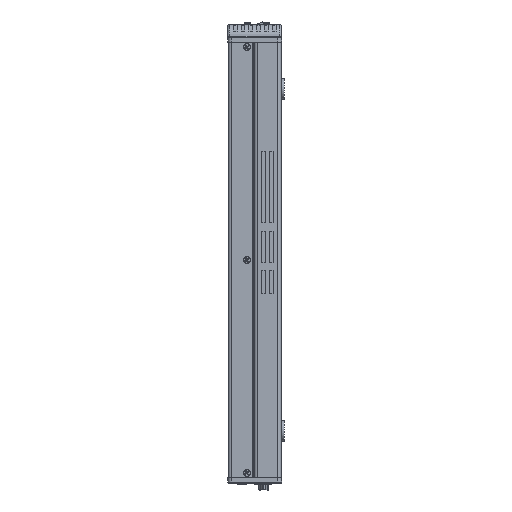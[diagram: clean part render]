
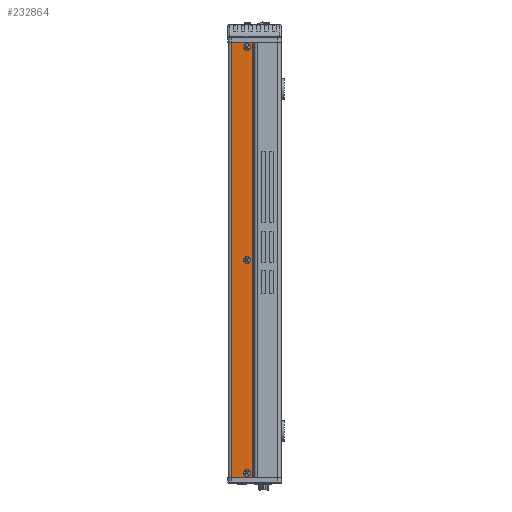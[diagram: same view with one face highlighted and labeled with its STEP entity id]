
A CAD part, left-side view. The second image highlights one B-rep face of the part: STEP entity #232864.
In plain terms, the highlighted planar face has unit normal (-1, 0, 0).
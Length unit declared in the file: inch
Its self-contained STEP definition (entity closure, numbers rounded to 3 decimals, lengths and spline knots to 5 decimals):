
#1735 = EDGE_LOOP ( 'NONE', ( #254996, #45891, #256459, #267257 ) ) ;
#3794 = CARTESIAN_POINT ( 'NONE',  ( -8.69, 0.3625, -13.84375 ) ) ;
#4994 = DIRECTION ( 'NONE',  ( 0., 1., 0. ) ) ;
#5361 = VERTEX_POINT ( 'NONE', #213661 ) ;
#5819 = CARTESIAN_POINT ( 'NONE',  ( -8.69, 0.1375, -0.15625 ) ) ;
#6050 = ORIENTED_EDGE ( 'NONE', *, *, #294753, .T. ) ;
#11266 = CARTESIAN_POINT ( 'NONE',  ( -8.69, 0.25, -0.15625 ) ) ;
#15564 = CARTESIAN_POINT ( 'NONE',  ( -8.69, 0.07, -14. ) ) ;
#18167 = LINE ( 'NONE', #118446, #237212 ) ;
#30434 = DIRECTION ( 'NONE',  ( 1., 0., 0. ) ) ;
#38079 = VECTOR ( 'NONE', #132512, 39.37008 ) ;
#38104 = AXIS2_PLACEMENT_3D ( 'NONE', #48220, #298061, #67967 ) ;
#42083 = EDGE_CURVE ( 'NONE', #42923, #79797, #316914, .T. ) ;
#42923 = VERTEX_POINT ( 'NONE', #85781 ) ;
#43448 = CIRCLE ( 'NONE', #38104, 0.1125 ) ;
#45891 = ORIENTED_EDGE ( 'NONE', *, *, #157587, .T. ) ;
#48220 = CARTESIAN_POINT ( 'NONE',  ( -8.69, 0.25, -13.84375 ) ) ;
#48782 = ORIENTED_EDGE ( 'NONE', *, *, #196059, .T. ) ;
#50822 = EDGE_LOOP ( 'NONE', ( #89971, #152458 ) ) ;
#59266 = EDGE_CURVE ( 'NONE', #5361, #78234, #131516, .T. ) ;
#62567 = CARTESIAN_POINT ( 'NONE',  ( -8.69, 0.25, -0.15625 ) ) ;
#67967 = DIRECTION ( 'NONE',  ( 0., -1., 0. ) ) ;
#68513 = FACE_BOUND ( 'NONE', #159468, .T. ) ;
#74805 = AXIS2_PLACEMENT_3D ( 'NONE', #62567, #30434, #263159 ) ;
#76491 = CARTESIAN_POINT ( 'NONE',  ( -8.69, 0.74, -14. ) ) ;
#78234 = VERTEX_POINT ( 'NONE', #167127 ) ;
#79797 = VERTEX_POINT ( 'NONE', #203722 ) ;
#81068 = VERTEX_POINT ( 'NONE', #3794 ) ;
#82670 = EDGE_LOOP ( 'NONE', ( #6050, #247662 ) ) ;
#85781 = CARTESIAN_POINT ( 'NONE',  ( -8.69, 0.3625, -7. ) ) ;
#89971 = ORIENTED_EDGE ( 'NONE', *, *, #151979, .T. ) ;
#91153 = AXIS2_PLACEMENT_3D ( 'NONE', #162662, #308908, #185706 ) ;
#97261 = VERTEX_POINT ( 'NONE', #271899 ) ;
#98264 = VERTEX_POINT ( 'NONE', #5819 ) ;
#101420 = CARTESIAN_POINT ( 'NONE',  ( -8.69, 0.07, 0. ) ) ;
#106051 = LINE ( 'NONE', #76491, #38079 ) ;
#107357 = DIRECTION ( 'NONE',  ( 0., -1., 0. ) ) ;
#111412 = DIRECTION ( 'NONE',  ( 1., 0., 0. ) ) ;
#118446 = CARTESIAN_POINT ( 'NONE',  ( -8.69, 0.74213, -7. ) ) ;
#131516 = LINE ( 'NONE', #282484, #208643 ) ;
#132512 = DIRECTION ( 'NONE',  ( 0., 1., 0. ) ) ;
#144259 = FACE_OUTER_BOUND ( 'NONE', #1735, .T. ) ;
#148365 = CIRCLE ( 'NONE', #74805, 0.1125 ) ;
#149837 = CARTESIAN_POINT ( 'NONE',  ( -8.69, 0.3625, -0.15625 ) ) ;
#151979 = EDGE_CURVE ( 'NONE', #79797, #42923, #268395, .T. ) ;
#152458 = ORIENTED_EDGE ( 'NONE', *, *, #42083, .T. ) ;
#155644 = EDGE_CURVE ( 'NONE', #244119, #78234, #18167, .T. ) ;
#156407 = EDGE_CURVE ( 'NONE', #323562, #98264, #148365, .T. ) ;
#157587 = EDGE_CURVE ( 'NONE', #246132, #5361, #274021, .T. ) ;
#158064 = DIRECTION ( 'NONE',  ( 1., 0., 0. ) ) ;
#158521 = AXIS2_PLACEMENT_3D ( 'NONE', #204926, #180275, #252553 ) ;
#159468 = EDGE_LOOP ( 'NONE', ( #271818, #48782 ) ) ;
#162662 = CARTESIAN_POINT ( 'NONE',  ( -8.69, 0.25, -7. ) ) ;
#166935 = AXIS2_PLACEMENT_3D ( 'NONE', #189146, #158064, #235220 ) ;
#167127 = CARTESIAN_POINT ( 'NONE',  ( -8.69, 0.74213, 0. ) ) ;
#168847 = FACE_BOUND ( 'NONE', #82670, .T. ) ;
#179817 = EDGE_CURVE ( 'NONE', #97261, #81068, #271764, .T. ) ;
#180275 = DIRECTION ( 'NONE',  ( -1., 0., 0. ) ) ;
#185706 = DIRECTION ( 'NONE',  ( 0., -1., 0. ) ) ;
#185850 = VECTOR ( 'NONE', #201727, 39.37008 ) ;
#187833 = DIRECTION ( 'NONE',  ( 1., 0., 0. ) ) ;
#189146 = CARTESIAN_POINT ( 'NONE',  ( -8.69, 0.25, -13.84375 ) ) ;
#196059 = EDGE_CURVE ( 'NONE', #81068, #97261, #43448, .T. ) ;
#197398 = EDGE_CURVE ( 'NONE', #246132, #244119, #106051, .T. ) ;
#201727 = DIRECTION ( 'NONE',  ( 0., 0., 1. ) ) ;
#203722 = CARTESIAN_POINT ( 'NONE',  ( -8.69, 0.1375, -7. ) ) ;
#204926 = CARTESIAN_POINT ( 'NONE',  ( -8.69, 0., 0. ) ) ;
#208643 = VECTOR ( 'NONE', #4994, 39.37008 ) ;
#213661 = CARTESIAN_POINT ( 'NONE',  ( -8.69, 0.07, 0. ) ) ;
#231681 = AXIS2_PLACEMENT_3D ( 'NONE', #237118, #187833, #107357 ) ;
#232864 = ADVANCED_FACE ( 'NONE', ( #68513, #321662, #168847, #144259 ), #269107, .T. ) ;
#235220 = DIRECTION ( 'NONE',  ( 0., -1., 0. ) ) ;
#237118 = CARTESIAN_POINT ( 'NONE',  ( -8.69, 0.25, -7. ) ) ;
#237212 = VECTOR ( 'NONE', #244878, 39.37008 ) ;
#244119 = VERTEX_POINT ( 'NONE', #321793 ) ;
#244878 = DIRECTION ( 'NONE',  ( 0., 0., 1. ) ) ;
#246132 = VERTEX_POINT ( 'NONE', #15564 ) ;
#247662 = ORIENTED_EDGE ( 'NONE', *, *, #156407, .T. ) ;
#252553 = DIRECTION ( 'NONE',  ( 0., 0., 1. ) ) ;
#254996 = ORIENTED_EDGE ( 'NONE', *, *, #197398, .F. ) ;
#256459 = ORIENTED_EDGE ( 'NONE', *, *, #59266, .T. ) ;
#263159 = DIRECTION ( 'NONE',  ( 0., -1., 0. ) ) ;
#267257 = ORIENTED_EDGE ( 'NONE', *, *, #155644, .F. ) ;
#268395 = CIRCLE ( 'NONE', #231681, 0.1125 ) ;
#269107 = PLANE ( 'NONE',  #158521 ) ;
#271764 = CIRCLE ( 'NONE', #166935, 0.1125 ) ;
#271818 = ORIENTED_EDGE ( 'NONE', *, *, #179817, .T. ) ;
#271899 = CARTESIAN_POINT ( 'NONE',  ( -8.69, 0.1375, -13.84375 ) ) ;
#274021 = LINE ( 'NONE', #101420, #185850 ) ;
#282484 = CARTESIAN_POINT ( 'NONE',  ( -8.69, 0., 0. ) ) ;
#287612 = CIRCLE ( 'NONE', #319084, 0.1125 ) ;
#294753 = EDGE_CURVE ( 'NONE', #98264, #323562, #287612, .T. ) ;
#298061 = DIRECTION ( 'NONE',  ( 1., 0., 0. ) ) ;
#308908 = DIRECTION ( 'NONE',  ( 1., 0., 0. ) ) ;
#311865 = DIRECTION ( 'NONE',  ( 0., -1., 0. ) ) ;
#316914 = CIRCLE ( 'NONE', #91153, 0.1125 ) ;
#319084 = AXIS2_PLACEMENT_3D ( 'NONE', #11266, #111412, #311865 ) ;
#321662 = FACE_BOUND ( 'NONE', #50822, .T. ) ;
#321793 = CARTESIAN_POINT ( 'NONE',  ( -8.69, 0.74213, -14. ) ) ;
#323562 = VERTEX_POINT ( 'NONE', #149837 ) ;
